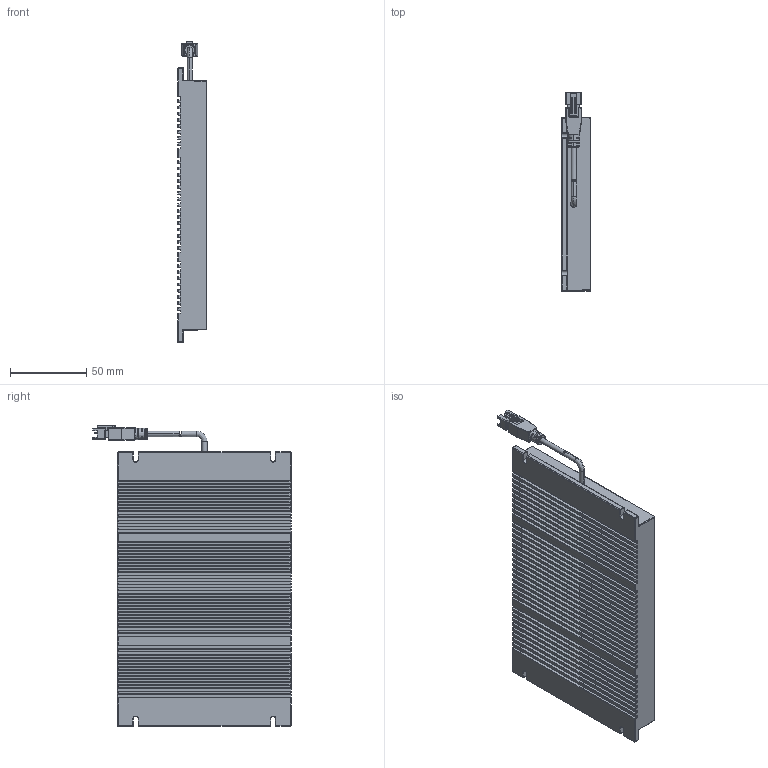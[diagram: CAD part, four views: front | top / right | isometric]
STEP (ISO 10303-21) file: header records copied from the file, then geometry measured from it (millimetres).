
FILE_DESCRIPTION (( 'STEP AP214' ), '1' );
FILE_NAME ('CST-HFS150100-蚾饜极.STEP', '2022-05-26T02:15:04', ( '' ), ( '' ), 'SwSTEP 2.0', 'SolidWorks 2018', '' );
FILE_SCHEMA (( 'AUTOMOTIVE_DESIGN' ));
Length unit declared in the file: millimetre
Products named in the file (2): CST-HFS150100-蚾饜极
Bounding box: 19 x 130.22 x 197.17 mm (x, y, z)
Surface area: 141847.3 mm2 (no closed solid volume)
Topology: 0 solids, 5 shells, 2268 faces, 5932 edges, 3047 vertices
Faces by surface type: cylinder 937, bspline 901, plane 400, cone 24, torus 6
Entity records: 109099 total; most frequent: CARTESIAN_POINT 35271, ORIENTED_EDGE 10539, DIRECTION 10354, EDGE_CURVE 5293, AXIS2_PLACEMENT_3D 4154, VERTEX_POINT 3047, CIRCLE 2785, EDGE_LOOP 2308
